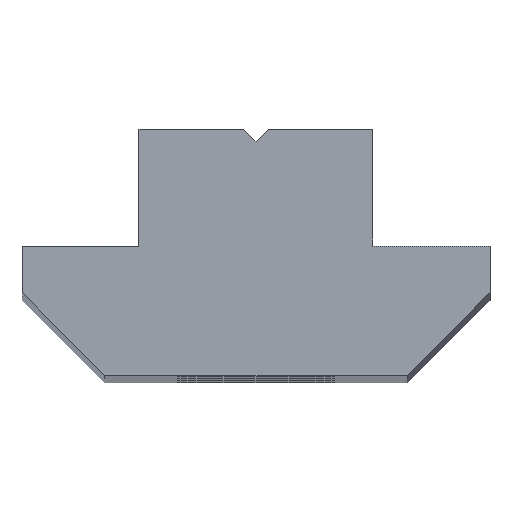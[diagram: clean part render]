
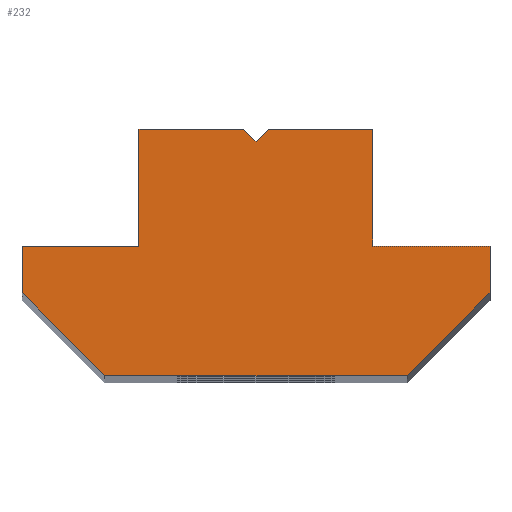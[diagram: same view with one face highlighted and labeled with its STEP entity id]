
A CAD part, top view. The second image highlights one B-rep face of the part: STEP entity #232.
In plain terms, the highlighted planar face has unit normal (0, 0, 1).
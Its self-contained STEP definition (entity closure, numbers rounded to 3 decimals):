
#1 = DIRECTION ( 'NONE',  ( 1., 0., 0. ) ) ;
#21 = EDGE_CURVE ( 'NONE', #772, #774, #712, .T. ) ;
#37 = VERTEX_POINT ( 'NONE', #292 ) ;
#46 = ORIENTED_EDGE ( 'NONE', *, *, #995, .T. ) ;
#52 = VECTOR ( 'NONE', #345, 1000. ) ;
#60 = CARTESIAN_POINT ( 'NONE',  ( -4.718, -4.718, 180. ) ) ;
#70 = CARTESIAN_POINT ( 'NONE',  ( -16.762, -7.152, 180. ) ) ;
#78 = CARTESIAN_POINT ( 'NONE',  ( -1.762, -2.152, 180. ) ) ;
#133 = DIRECTION ( 'NONE',  ( 0.707, -0.707, 0. ) ) ;
#147 = CARTESIAN_POINT ( 'NONE',  ( -7.284, -2.152, 180. ) ) ;
#152 = VECTOR ( 'NONE', #702, 1000. ) ;
#153 = DIRECTION ( 'NONE',  ( -0.707, 0.707, 0. ) ) ;
#162 = EDGE_CURVE ( 'NONE', #774, #472, #383, .T. ) ;
#164 = DIRECTION ( 'NONE',  ( 0., -1., 0. ) ) ;
#172 = ORIENTED_EDGE ( 'NONE', *, *, #539, .T. ) ;
#175 = VERTEX_POINT ( 'NONE', #260 ) ;
#177 = CARTESIAN_POINT ( 'NONE',  ( 0., 0., 180. ) ) ;
#189 = DIRECTION ( 'NONE',  ( -0.707, -0.707, 0. ) ) ;
#232 = ADVANCED_FACE ( 'NONE', ( #282 ), #1035, .F. ) ;
#234 = VECTOR ( 'NONE', #809, 1000. ) ;
#255 = VECTOR ( 'NONE', #997, 1000. ) ;
#260 = CARTESIAN_POINT ( 'NONE',  ( -11.762, -2.152, 180. ) ) ;
#282 = FACE_OUTER_BOUND ( 'NONE', #1046, .T. ) ;
#290 = EDGE_CURVE ( 'NONE', #552, #175, #960, .T. ) ;
#292 = CARTESIAN_POINT ( 'NONE',  ( 3.238, -7.152, 180. ) ) ;
#293 = VECTOR ( 'NONE', #386, 1000. ) ;
#297 = ORIENTED_EDGE ( 'NONE', *, *, #315, .T. ) ;
#300 = EDGE_CURVE ( 'NONE', #472, #37, #992, .T. ) ;
#301 = AXIS2_PLACEMENT_3D ( 'NONE', #177, #511, #642 ) ;
#315 = EDGE_CURVE ( 'NONE', #672, #565, #459, .T. ) ;
#316 = CARTESIAN_POINT ( 'NONE',  ( -6.762, -2.674, 180. ) ) ;
#320 = VERTEX_POINT ( 'NONE', #825 ) ;
#321 = LINE ( 'NONE', #70, #751 ) ;
#339 = DIRECTION ( 'NONE',  ( 0., -1., 0. ) ) ;
#345 = DIRECTION ( 'NONE',  ( 0.707, 0.707, 0. ) ) ;
#346 = LINE ( 'NONE', #767, #773 ) ;
#350 = CARTESIAN_POINT ( 'NONE',  ( 3.238, -9.152, 180. ) ) ;
#383 = LINE ( 'NONE', #350, #52 ) ;
#386 = DIRECTION ( 'NONE',  ( -1., 0., 0. ) ) ;
#397 = CARTESIAN_POINT ( 'NONE',  ( -5.762, -2.152, 180. ) ) ;
#411 = ORIENTED_EDGE ( 'NONE', *, *, #1055, .T. ) ;
#459 = LINE ( 'NONE', #648, #646 ) ;
#463 = LINE ( 'NONE', #397, #234 ) ;
#464 = ORIENTED_EDGE ( 'NONE', *, *, #21, .T. ) ;
#472 = VERTEX_POINT ( 'NONE', #878 ) ;
#494 = VECTOR ( 'NONE', #607, 1000. ) ;
#497 = EDGE_CURVE ( 'NONE', #320, #672, #463, .T. ) ;
#509 = ORIENTED_EDGE ( 'NONE', *, *, #162, .T. ) ;
#511 = DIRECTION ( 'NONE',  ( 0., 0., -1. ) ) ;
#524 = ORIENTED_EDGE ( 'NONE', *, *, #497, .T. ) ;
#539 = EDGE_CURVE ( 'NONE', #754, #772, #806, .T. ) ;
#546 = ORIENTED_EDGE ( 'NONE', *, *, #1094, .T. ) ;
#552 = VERTEX_POINT ( 'NONE', #147 ) ;
#565 = VERTEX_POINT ( 'NONE', #316 ) ;
#578 = EDGE_CURVE ( 'NONE', #1066, #1025, #967, .T. ) ;
#593 = DIRECTION ( 'NONE',  ( -1., 0., 0. ) ) ;
#604 = VECTOR ( 'NONE', #593, 1000. ) ;
#605 = VECTOR ( 'NONE', #133, 1000. ) ;
#606 = ORIENTED_EDGE ( 'NONE', *, *, #578, .T. ) ;
#607 = DIRECTION ( 'NONE',  ( 0., 1., 0. ) ) ;
#622 = CARTESIAN_POINT ( 'NONE',  ( -16.762, -9.152, 180. ) ) ;
#629 = CARTESIAN_POINT ( 'NONE',  ( -6.239, -2.152, 180. ) ) ;
#635 = CARTESIAN_POINT ( 'NONE',  ( -0.297, -12.687, 180. ) ) ;
#642 = DIRECTION ( 'NONE',  ( -1., 0., 0. ) ) ;
#646 = VECTOR ( 'NONE', #189, 1000. ) ;
#648 = CARTESIAN_POINT ( 'NONE',  ( -2.044, 2.044, 180. ) ) ;
#672 = VERTEX_POINT ( 'NONE', #629 ) ;
#684 = CARTESIAN_POINT ( 'NONE',  ( -11.762, -7.152, 180. ) ) ;
#702 = DIRECTION ( 'NONE',  ( -1., 0., 0. ) ) ;
#712 = LINE ( 'NONE', #1069, #1015 ) ;
#715 = CARTESIAN_POINT ( 'NONE',  ( -13.226, -12.687, 180. ) ) ;
#727 = VERTEX_POINT ( 'NONE', #964 ) ;
#729 = LINE ( 'NONE', #78, #494 ) ;
#751 = VECTOR ( 'NONE', #164, 1000. ) ;
#752 = ORIENTED_EDGE ( 'NONE', *, *, #290, .T. ) ;
#754 = VERTEX_POINT ( 'NONE', #870 ) ;
#767 = CARTESIAN_POINT ( 'NONE',  ( -11.762, -2.152, 180. ) ) ;
#772 = VERTEX_POINT ( 'NONE', #715 ) ;
#773 = VECTOR ( 'NONE', #339, 1000. ) ;
#774 = VERTEX_POINT ( 'NONE', #635 ) ;
#806 = LINE ( 'NONE', #622, #605 ) ;
#809 = DIRECTION ( 'NONE',  ( -1., 0., 0. ) ) ;
#814 = CARTESIAN_POINT ( 'NONE',  ( -11.762, -2.152, 180. ) ) ;
#825 = CARTESIAN_POINT ( 'NONE',  ( -1.762, -2.152, 180. ) ) ;
#828 = LINE ( 'NONE', #925, #604 ) ;
#832 = ORIENTED_EDGE ( 'NONE', *, *, #1026, .T. ) ;
#870 = CARTESIAN_POINT ( 'NONE',  ( -16.762, -9.152, 180. ) ) ;
#878 = CARTESIAN_POINT ( 'NONE',  ( 3.238, -9.152, 180. ) ) ;
#882 = LINE ( 'NONE', #60, #1091 ) ;
#895 = CARTESIAN_POINT ( 'NONE',  ( -11.762, -7.152, 180. ) ) ;
#925 = CARTESIAN_POINT ( 'NONE',  ( -1.762, -7.152, 180. ) ) ;
#937 = CARTESIAN_POINT ( 'NONE',  ( 3.238, -7.152, 180. ) ) ;
#960 = LINE ( 'NONE', #814, #152 ) ;
#963 = ORIENTED_EDGE ( 'NONE', *, *, #300, .T. ) ;
#964 = CARTESIAN_POINT ( 'NONE',  ( -1.762, -7.152, 180. ) ) ;
#967 = LINE ( 'NONE', #895, #293 ) ;
#970 = EDGE_CURVE ( 'NONE', #565, #552, #882, .T. ) ;
#992 = LINE ( 'NONE', #937, #255 ) ;
#995 = EDGE_CURVE ( 'NONE', #37, #727, #828, .T. ) ;
#997 = DIRECTION ( 'NONE',  ( 0., 1., 0. ) ) ;
#1015 = VECTOR ( 'NONE', #1, 1000. ) ;
#1025 = VERTEX_POINT ( 'NONE', #1106 ) ;
#1026 = EDGE_CURVE ( 'NONE', #175, #1066, #346, .T. ) ;
#1032 = ORIENTED_EDGE ( 'NONE', *, *, #970, .T. ) ;
#1035 = PLANE ( 'NONE',  #301 ) ;
#1046 = EDGE_LOOP ( 'NONE', ( #832, #606, #411, #172, #464, #509, #963, #46, #546, #524, #297, #1032, #752 ) ) ;
#1055 = EDGE_CURVE ( 'NONE', #1025, #754, #321, .T. ) ;
#1066 = VERTEX_POINT ( 'NONE', #684 ) ;
#1069 = CARTESIAN_POINT ( 'NONE',  ( -13.226, -12.687, 180. ) ) ;
#1091 = VECTOR ( 'NONE', #153, 1000. ) ;
#1094 = EDGE_CURVE ( 'NONE', #727, #320, #729, .T. ) ;
#1106 = CARTESIAN_POINT ( 'NONE',  ( -16.762, -7.152, 180. ) ) ;
